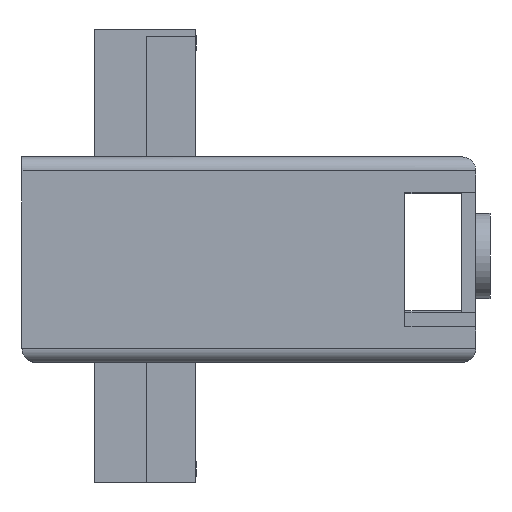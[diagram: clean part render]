
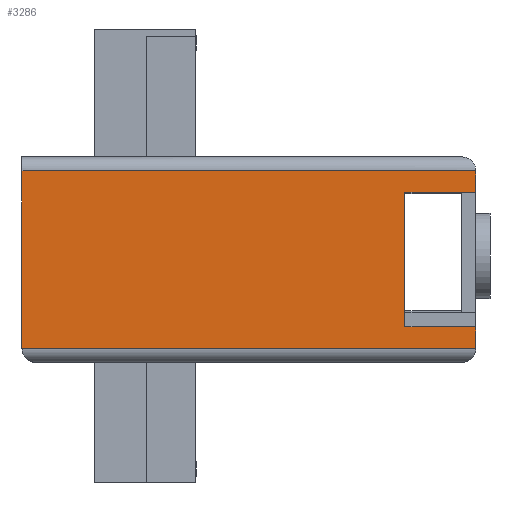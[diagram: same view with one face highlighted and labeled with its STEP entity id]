
A CAD part, left-side view. The second image highlights one B-rep face of the part: STEP entity #3286.
In plain terms, the highlighted planar face has unit normal (-1, 0, 0).
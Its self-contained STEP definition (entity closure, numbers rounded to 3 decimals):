
#321 = PLANE('',#322);
#322 = AXIS2_PLACEMENT_3D('',#323,#324,#325);
#323 = CARTESIAN_POINT('',(-44.284,10.,22.71));
#324 = DIRECTION('',(0.,0.,1.));
#325 = DIRECTION('',(1.,0.,-0.));
#691 = PLANE('',#692);
#692 = AXIS2_PLACEMENT_3D('',#693,#694,#695);
#693 = CARTESIAN_POINT('',(0.,0.,0.));
#694 = DIRECTION('',(0.,1.,0.));
#695 = DIRECTION('',(0.,-0.,1.));
#1292 = PLANE('',#1293);
#1293 = AXIS2_PLACEMENT_3D('',#1294,#1295,#1296);
#1294 = CARTESIAN_POINT('',(-44.284,10.,3.71));
#1295 = DIRECTION('',(0.,0.,-1.));
#1296 = DIRECTION('',(-1.,0.,0.));
#1340 = VERTEX_POINT('',#1341);
#1341 = CARTESIAN_POINT('',(-44.284,10.,3.71));
#1355 = PLANE('',#1356);
#1356 = AXIS2_PLACEMENT_3D('',#1357,#1358,#1359);
#1357 = CARTESIAN_POINT('',(0.,10.,0.));
#1358 = DIRECTION('',(0.,-1.,0.));
#1359 = DIRECTION('',(0.,0.,-1.));
#1367 = EDGE_CURVE('',#1340,#1368,#1370,.T.);
#1368 = VERTEX_POINT('',#1369);
#1369 = CARTESIAN_POINT('',(-44.284,0.,3.71));
#1370 = SURFACE_CURVE('',#1371,(#1375,#1382),.PCURVE_S1.);
#1371 = LINE('',#1372,#1373);
#1372 = CARTESIAN_POINT('',(-44.284,10.,3.71));
#1373 = VECTOR('',#1374,1.);
#1374 = DIRECTION('',(0.,-1.,0.));
#1375 = PCURVE('',#1292,#1376);
#1376 = DEFINITIONAL_REPRESENTATION('',(#1377),#1381);
#1377 = LINE('',#1378,#1379);
#1378 = CARTESIAN_POINT('',(0.,0.));
#1379 = VECTOR('',#1380,1.);
#1380 = DIRECTION('',(0.,-1.));
#1381 = ( GEOMETRIC_REPRESENTATION_CONTEXT(2) 
PARAMETRIC_REPRESENTATION_CONTEXT() REPRESENTATION_CONTEXT('2D SPACE',''
  ) );
#1382 = PCURVE('',#1383,#1388);
#1383 = PLANE('',#1384);
#1384 = AXIS2_PLACEMENT_3D('',#1385,#1386,#1387);
#1385 = CARTESIAN_POINT('',(-44.284,64.,-1.29));
#1386 = DIRECTION('',(1.,0.,0.));
#1387 = DIRECTION('',(0.,0.,-1.));
#1388 = DEFINITIONAL_REPRESENTATION('',(#1389),#1393);
#1389 = LINE('',#1390,#1391);
#1390 = CARTESIAN_POINT('',(-5.,-54.));
#1391 = VECTOR('',#1392,1.);
#1392 = DIRECTION('',(0.,-1.));
#1393 = ( GEOMETRIC_REPRESENTATION_CONTEXT(2) 
PARAMETRIC_REPRESENTATION_CONTEXT() REPRESENTATION_CONTEXT('2D SPACE',''
  ) );
#2457 = PLANE('',#2458);
#2458 = AXIS2_PLACEMENT_3D('',#2459,#2460,#2461);
#2459 = CARTESIAN_POINT('',(0.,64.,0.));
#2460 = DIRECTION('',(0.,1.,0.));
#2461 = DIRECTION('',(0.,-0.,1.));
#2483 = CYLINDRICAL_SURFACE('',#2484,2.);
#2484 = AXIS2_PLACEMENT_3D('',#2485,#2486,#2487);
#2485 = CARTESIAN_POINT('',(-42.284,0.,25.71));
#2486 = DIRECTION('',(0.,-1.,0.));
#2487 = DIRECTION('',(0.,0.,-1.));
#3286 = ADVANCED_FACE('',(#3287),#1383,.F.);
#3287 = FACE_BOUND('',#3288,.T.);
#3288 = EDGE_LOOP('',(#3289,#3314,#3342,#3363,#3364,#3387,#3410,#3433));
#3289 = ORIENTED_EDGE('',*,*,#3290,.F.);
#3290 = EDGE_CURVE('',#3291,#3293,#3295,.T.);
#3291 = VERTEX_POINT('',#3292);
#3292 = CARTESIAN_POINT('',(-44.284,64.,0.71));
#3293 = VERTEX_POINT('',#3294);
#3294 = CARTESIAN_POINT('',(-44.284,64.,25.71));
#3295 = SURFACE_CURVE('',#3296,(#3300,#3307),.PCURVE_S1.);
#3296 = LINE('',#3297,#3298);
#3297 = CARTESIAN_POINT('',(-44.284,64.,-1.29));
#3298 = VECTOR('',#3299,1.);
#3299 = DIRECTION('',(0.,0.,1.));
#3300 = PCURVE('',#1383,#3301);
#3301 = DEFINITIONAL_REPRESENTATION('',(#3302),#3306);
#3302 = LINE('',#3303,#3304);
#3303 = CARTESIAN_POINT('',(0.,0.));
#3304 = VECTOR('',#3305,1.);
#3305 = DIRECTION('',(-1.,0.));
#3306 = ( GEOMETRIC_REPRESENTATION_CONTEXT(2) 
PARAMETRIC_REPRESENTATION_CONTEXT() REPRESENTATION_CONTEXT('2D SPACE',''
  ) );
#3307 = PCURVE('',#2457,#3308);
#3308 = DEFINITIONAL_REPRESENTATION('',(#3309),#3313);
#3309 = LINE('',#3310,#3311);
#3310 = CARTESIAN_POINT('',(-1.29,-44.284));
#3311 = VECTOR('',#3312,1.);
#3312 = DIRECTION('',(1.,0.));
#3313 = ( GEOMETRIC_REPRESENTATION_CONTEXT(2) 
PARAMETRIC_REPRESENTATION_CONTEXT() REPRESENTATION_CONTEXT('2D SPACE',''
  ) );
#3314 = ORIENTED_EDGE('',*,*,#3315,.T.);
#3315 = EDGE_CURVE('',#3291,#3316,#3318,.T.);
#3316 = VERTEX_POINT('',#3317);
#3317 = CARTESIAN_POINT('',(-44.284,0.,0.71));
#3318 = SURFACE_CURVE('',#3319,(#3323,#3330),.PCURVE_S1.);
#3319 = LINE('',#3320,#3321);
#3320 = CARTESIAN_POINT('',(-44.284,64.,0.71));
#3321 = VECTOR('',#3322,1.);
#3322 = DIRECTION('',(0.,-1.,0.));
#3323 = PCURVE('',#1383,#3324);
#3324 = DEFINITIONAL_REPRESENTATION('',(#3325),#3329);
#3325 = LINE('',#3326,#3327);
#3326 = CARTESIAN_POINT('',(-2.,0.));
#3327 = VECTOR('',#3328,1.);
#3328 = DIRECTION('',(0.,-1.));
#3329 = ( GEOMETRIC_REPRESENTATION_CONTEXT(2) 
PARAMETRIC_REPRESENTATION_CONTEXT() REPRESENTATION_CONTEXT('2D SPACE',''
  ) );
#3330 = PCURVE('',#3331,#3336);
#3331 = CYLINDRICAL_SURFACE('',#3332,2.);
#3332 = AXIS2_PLACEMENT_3D('',#3333,#3334,#3335);
#3333 = CARTESIAN_POINT('',(-42.284,64.,0.71));
#3334 = DIRECTION('',(0.,-1.,0.));
#3335 = DIRECTION('',(0.,0.,-1.));
#3336 = DEFINITIONAL_REPRESENTATION('',(#3337),#3341);
#3337 = LINE('',#3338,#3339);
#3338 = CARTESIAN_POINT('',(4.712,0.));
#3339 = VECTOR('',#3340,1.);
#3340 = DIRECTION('',(0.,1.));
#3341 = ( GEOMETRIC_REPRESENTATION_CONTEXT(2) 
PARAMETRIC_REPRESENTATION_CONTEXT() REPRESENTATION_CONTEXT('2D SPACE',''
  ) );
#3342 = ORIENTED_EDGE('',*,*,#3343,.T.);
#3343 = EDGE_CURVE('',#3316,#1368,#3344,.T.);
#3344 = SURFACE_CURVE('',#3345,(#3349,#3356),.PCURVE_S1.);
#3345 = LINE('',#3346,#3347);
#3346 = CARTESIAN_POINT('',(-44.284,0.,-1.29));
#3347 = VECTOR('',#3348,1.);
#3348 = DIRECTION('',(0.,0.,1.));
#3349 = PCURVE('',#1383,#3350);
#3350 = DEFINITIONAL_REPRESENTATION('',(#3351),#3355);
#3351 = LINE('',#3352,#3353);
#3352 = CARTESIAN_POINT('',(0.,-64.));
#3353 = VECTOR('',#3354,1.);
#3354 = DIRECTION('',(-1.,0.));
#3355 = ( GEOMETRIC_REPRESENTATION_CONTEXT(2) 
PARAMETRIC_REPRESENTATION_CONTEXT() REPRESENTATION_CONTEXT('2D SPACE',''
  ) );
#3356 = PCURVE('',#691,#3357);
#3357 = DEFINITIONAL_REPRESENTATION('',(#3358),#3362);
#3358 = LINE('',#3359,#3360);
#3359 = CARTESIAN_POINT('',(-1.29,-44.284));
#3360 = VECTOR('',#3361,1.);
#3361 = DIRECTION('',(1.,0.));
#3362 = ( GEOMETRIC_REPRESENTATION_CONTEXT(2) 
PARAMETRIC_REPRESENTATION_CONTEXT() REPRESENTATION_CONTEXT('2D SPACE',''
  ) );
#3363 = ORIENTED_EDGE('',*,*,#1367,.F.);
#3364 = ORIENTED_EDGE('',*,*,#3365,.F.);
#3365 = EDGE_CURVE('',#3366,#1340,#3368,.T.);
#3366 = VERTEX_POINT('',#3367);
#3367 = CARTESIAN_POINT('',(-44.284,10.,22.71));
#3368 = SURFACE_CURVE('',#3369,(#3373,#3380),.PCURVE_S1.);
#3369 = LINE('',#3370,#3371);
#3370 = CARTESIAN_POINT('',(-44.284,10.,22.71));
#3371 = VECTOR('',#3372,1.);
#3372 = DIRECTION('',(0.,0.,-1.));
#3373 = PCURVE('',#1383,#3374);
#3374 = DEFINITIONAL_REPRESENTATION('',(#3375),#3379);
#3375 = LINE('',#3376,#3377);
#3376 = CARTESIAN_POINT('',(-24.,-54.));
#3377 = VECTOR('',#3378,1.);
#3378 = DIRECTION('',(1.,0.));
#3379 = ( GEOMETRIC_REPRESENTATION_CONTEXT(2) 
PARAMETRIC_REPRESENTATION_CONTEXT() REPRESENTATION_CONTEXT('2D SPACE',''
  ) );
#3380 = PCURVE('',#1355,#3381);
#3381 = DEFINITIONAL_REPRESENTATION('',(#3382),#3386);
#3382 = LINE('',#3383,#3384);
#3383 = CARTESIAN_POINT('',(-22.71,-44.284));
#3384 = VECTOR('',#3385,1.);
#3385 = DIRECTION('',(1.,0.));
#3386 = ( GEOMETRIC_REPRESENTATION_CONTEXT(2) 
PARAMETRIC_REPRESENTATION_CONTEXT() REPRESENTATION_CONTEXT('2D SPACE',''
  ) );
#3387 = ORIENTED_EDGE('',*,*,#3388,.T.);
#3388 = EDGE_CURVE('',#3366,#3389,#3391,.T.);
#3389 = VERTEX_POINT('',#3390);
#3390 = CARTESIAN_POINT('',(-44.284,0.,22.71));
#3391 = SURFACE_CURVE('',#3392,(#3396,#3403),.PCURVE_S1.);
#3392 = LINE('',#3393,#3394);
#3393 = CARTESIAN_POINT('',(-44.284,10.,22.71));
#3394 = VECTOR('',#3395,1.);
#3395 = DIRECTION('',(0.,-1.,0.));
#3396 = PCURVE('',#1383,#3397);
#3397 = DEFINITIONAL_REPRESENTATION('',(#3398),#3402);
#3398 = LINE('',#3399,#3400);
#3399 = CARTESIAN_POINT('',(-24.,-54.));
#3400 = VECTOR('',#3401,1.);
#3401 = DIRECTION('',(0.,-1.));
#3402 = ( GEOMETRIC_REPRESENTATION_CONTEXT(2) 
PARAMETRIC_REPRESENTATION_CONTEXT() REPRESENTATION_CONTEXT('2D SPACE',''
  ) );
#3403 = PCURVE('',#321,#3404);
#3404 = DEFINITIONAL_REPRESENTATION('',(#3405),#3409);
#3405 = LINE('',#3406,#3407);
#3406 = CARTESIAN_POINT('',(0.,0.));
#3407 = VECTOR('',#3408,1.);
#3408 = DIRECTION('',(0.,-1.));
#3409 = ( GEOMETRIC_REPRESENTATION_CONTEXT(2) 
PARAMETRIC_REPRESENTATION_CONTEXT() REPRESENTATION_CONTEXT('2D SPACE',''
  ) );
#3410 = ORIENTED_EDGE('',*,*,#3411,.T.);
#3411 = EDGE_CURVE('',#3389,#3412,#3414,.T.);
#3412 = VERTEX_POINT('',#3413);
#3413 = CARTESIAN_POINT('',(-44.284,0.,25.71));
#3414 = SURFACE_CURVE('',#3415,(#3419,#3426),.PCURVE_S1.);
#3415 = LINE('',#3416,#3417);
#3416 = CARTESIAN_POINT('',(-44.284,0.,-1.29));
#3417 = VECTOR('',#3418,1.);
#3418 = DIRECTION('',(0.,0.,1.));
#3419 = PCURVE('',#1383,#3420);
#3420 = DEFINITIONAL_REPRESENTATION('',(#3421),#3425);
#3421 = LINE('',#3422,#3423);
#3422 = CARTESIAN_POINT('',(0.,-64.));
#3423 = VECTOR('',#3424,1.);
#3424 = DIRECTION('',(-1.,0.));
#3425 = ( GEOMETRIC_REPRESENTATION_CONTEXT(2) 
PARAMETRIC_REPRESENTATION_CONTEXT() REPRESENTATION_CONTEXT('2D SPACE',''
  ) );
#3426 = PCURVE('',#691,#3427);
#3427 = DEFINITIONAL_REPRESENTATION('',(#3428),#3432);
#3428 = LINE('',#3429,#3430);
#3429 = CARTESIAN_POINT('',(-1.29,-44.284));
#3430 = VECTOR('',#3431,1.);
#3431 = DIRECTION('',(1.,0.));
#3432 = ( GEOMETRIC_REPRESENTATION_CONTEXT(2) 
PARAMETRIC_REPRESENTATION_CONTEXT() REPRESENTATION_CONTEXT('2D SPACE',''
  ) );
#3433 = ORIENTED_EDGE('',*,*,#3434,.F.);
#3434 = EDGE_CURVE('',#3293,#3412,#3435,.T.);
#3435 = SURFACE_CURVE('',#3436,(#3440,#3447),.PCURVE_S1.);
#3436 = LINE('',#3437,#3438);
#3437 = CARTESIAN_POINT('',(-44.284,64.,25.71));
#3438 = VECTOR('',#3439,1.);
#3439 = DIRECTION('',(0.,-1.,0.));
#3440 = PCURVE('',#1383,#3441);
#3441 = DEFINITIONAL_REPRESENTATION('',(#3442),#3446);
#3442 = LINE('',#3443,#3444);
#3443 = CARTESIAN_POINT('',(-27.,0.));
#3444 = VECTOR('',#3445,1.);
#3445 = DIRECTION('',(0.,-1.));
#3446 = ( GEOMETRIC_REPRESENTATION_CONTEXT(2) 
PARAMETRIC_REPRESENTATION_CONTEXT() REPRESENTATION_CONTEXT('2D SPACE',''
  ) );
#3447 = PCURVE('',#2483,#3448);
#3448 = DEFINITIONAL_REPRESENTATION('',(#3449),#3453);
#3449 = LINE('',#3450,#3451);
#3450 = CARTESIAN_POINT('',(4.712,-64.));
#3451 = VECTOR('',#3452,1.);
#3452 = DIRECTION('',(0.,1.));
#3453 = ( GEOMETRIC_REPRESENTATION_CONTEXT(2) 
PARAMETRIC_REPRESENTATION_CONTEXT() REPRESENTATION_CONTEXT('2D SPACE',''
  ) );
